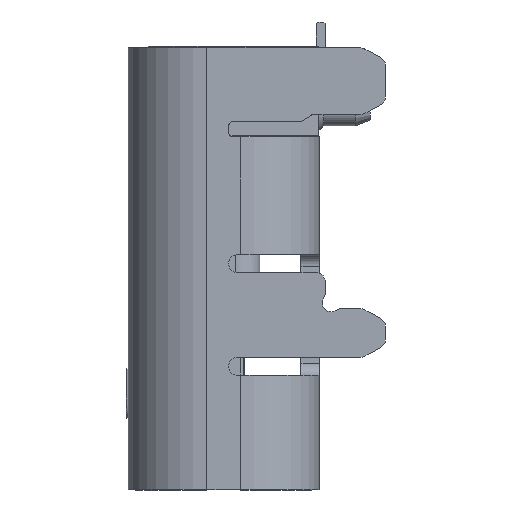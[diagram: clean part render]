
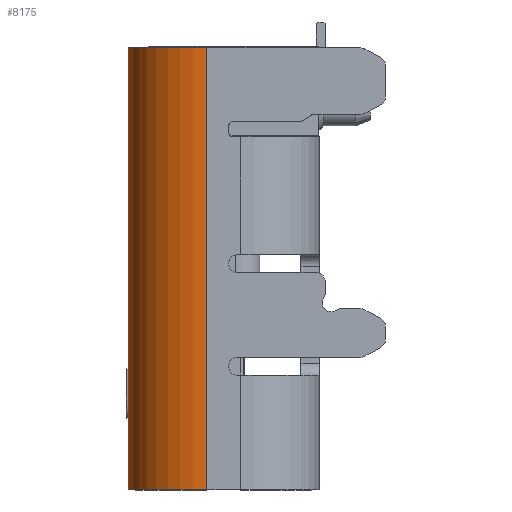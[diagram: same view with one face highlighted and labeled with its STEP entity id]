
A CAD part, left-side view. The second image highlights one B-rep face of the part: STEP entity #8175.
In plain terms, the highlighted cylindrical face has radius 1.3 mm (diameter 2.6 mm), a partial arc.
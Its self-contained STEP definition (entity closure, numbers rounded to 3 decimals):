
#829 = CIRCLE ( 'NONE', #24099, 1.3 ) ;
#1908 = VERTEX_POINT ( 'NONE', #20706 ) ;
#2756 = ORIENTED_EDGE ( 'NONE', *, *, #25830, .T. ) ;
#2956 = DIRECTION ( 'NONE',  ( 0., 0., 1. ) ) ;
#3175 = VERTEX_POINT ( 'NONE', #21710 ) ;
#3623 = DIRECTION ( 'NONE',  ( -1., 0., 0. ) ) ;
#4554 = DIRECTION ( 'NONE',  ( 0., 0., 1. ) ) ;
#4725 = VECTOR ( 'NONE', #5381, 1000. ) ;
#5381 = DIRECTION ( 'NONE',  ( 0., 0., -1. ) ) ;
#6920 = DIRECTION ( 'NONE',  ( -1., 0., 0. ) ) ;
#7191 = VERTEX_POINT ( 'NONE', #18566 ) ;
#8175 = ADVANCED_FACE ( 'NONE', ( #10617 ), #24448, .T. ) ;
#8342 = LINE ( 'NONE', #25760, #4725 ) ;
#9523 = AXIS2_PLACEMENT_3D ( 'NONE', #28663, #4554, #6920 ) ;
#10617 = FACE_OUTER_BOUND ( 'NONE', #17116, .T. ) ;
#11394 = ORIENTED_EDGE ( 'NONE', *, *, #13501, .F. ) ;
#12452 = DIRECTION ( 'NONE',  ( -1., 0., 0. ) ) ;
#13262 = ORIENTED_EDGE ( 'NONE', *, *, #14019, .F. ) ;
#13501 = EDGE_CURVE ( 'NONE', #3175, #7191, #20973, .T. ) ;
#14019 = EDGE_CURVE ( 'NONE', #28157, #3175, #829, .T. ) ;
#14177 = CARTESIAN_POINT ( 'NONE',  ( -0.444, 8.376, -0.528 ) ) ;
#14275 = CARTESIAN_POINT ( 'NONE',  ( -1.744, 7.076, -4.188 ) ) ;
#15922 = DIRECTION ( 'NONE',  ( 0., 0., -1. ) ) ;
#16893 = ORIENTED_EDGE ( 'NONE', *, *, #19396, .T. ) ;
#17116 = EDGE_LOOP ( 'NONE', ( #11394, #13262, #2756, #16893 ) ) ;
#18566 = CARTESIAN_POINT ( 'NONE',  ( -1.744, 7.076, -7.848 ) ) ;
#19396 = EDGE_CURVE ( 'NONE', #1908, #7191, #19485, .T. ) ;
#19485 = CIRCLE ( 'NONE', #9523, 1.3 ) ;
#19825 = CARTESIAN_POINT ( 'NONE',  ( -0.444, 7.076, -7.848 ) ) ;
#20706 = CARTESIAN_POINT ( 'NONE',  ( -0.444, 8.376, -7.848 ) ) ;
#20973 = LINE ( 'NONE', #14275, #28333 ) ;
#21710 = CARTESIAN_POINT ( 'NONE',  ( -1.744, 7.076, -0.528 ) ) ;
#22861 = AXIS2_PLACEMENT_3D ( 'NONE', #19825, #26243, #3623 ) ;
#23329 = CARTESIAN_POINT ( 'NONE',  ( -0.444, 7.076, -0.528 ) ) ;
#24099 = AXIS2_PLACEMENT_3D ( 'NONE', #23329, #2956, #12452 ) ;
#24448 = CYLINDRICAL_SURFACE ( 'NONE', #22861, 1.3 ) ;
#25760 = CARTESIAN_POINT ( 'NONE',  ( -0.444, 8.376, -4.188 ) ) ;
#25830 = EDGE_CURVE ( 'NONE', #28157, #1908, #8342, .T. ) ;
#26243 = DIRECTION ( 'NONE',  ( 0., 0., -1. ) ) ;
#28157 = VERTEX_POINT ( 'NONE', #14177 ) ;
#28333 = VECTOR ( 'NONE', #15922, 1000. ) ;
#28663 = CARTESIAN_POINT ( 'NONE',  ( -0.444, 7.076, -7.848 ) ) ;
